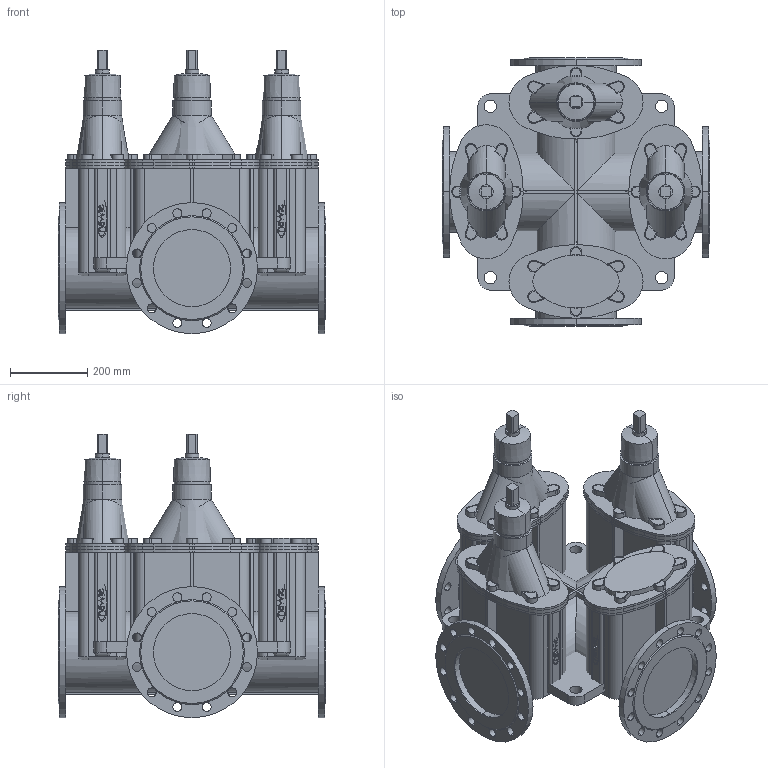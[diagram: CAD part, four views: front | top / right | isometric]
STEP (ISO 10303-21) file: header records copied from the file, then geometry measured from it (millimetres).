
FILE_DESCRIPTION(('STEP AP214'),'1');
FILE_NAME('S:/EK/USER/CAT6/3DHomepage_27-04-2012/neu_23-01-2013/4400E2/4400E2_PN16_DN200_3_9-12-3-B.STP','2013-01-23T15:04:04',(' '),(' '),'Spatial InterOp 3D',' ',' ');
FILE_SCHEMA(('automotive_design'));
Length unit declared in the file: millimetre
Products named in the file (194): 3D-Objekt
Bounding box: 695 x 695 x 735 mm (x, y, z)
Volume: 106912475 mm3; surface area: 6282663.8 mm2
Topology: 194 solids, 194 shells, 1868 faces, 4406 edges, 2934 vertices
Faces by surface type: plane 986, cylinder 824, cone 26, bspline 16, torus 16
Entity records: 74114 total; most frequent: DIRECTION 10274, CARTESIAN_POINT 9674, ORIENTED_EDGE 8812, EDGE_CURVE 4406, AXIS2_PLACEMENT_3D 3822, VERTEX_POINT 2934, LINE 2630, VECTOR 2630
